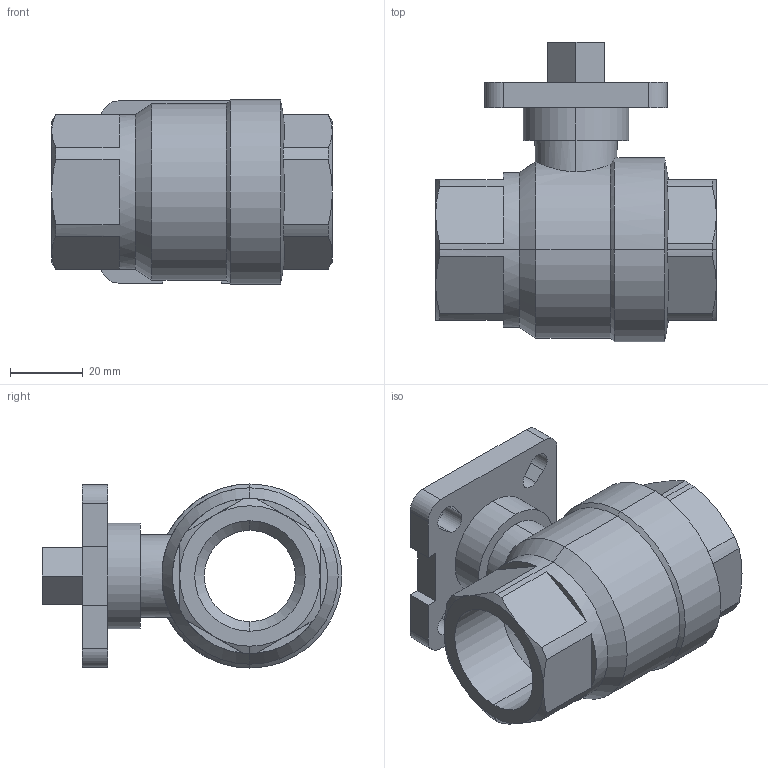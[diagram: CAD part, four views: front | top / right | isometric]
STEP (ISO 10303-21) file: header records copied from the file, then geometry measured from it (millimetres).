
FILE_DESCRIPTION (( 'STEP AP203' ), '1' );
FILE_NAME ('B3.622I0250FVPB0.STEP', '2018-09-28T13:32:39', ( '' ), ( '' ), 'SwSTEP 2.0', 'SolidWorks 2014', '' );
FILE_SCHEMA (( 'CONFIG_CONTROL_DESIGN' ));
Length unit declared in the file: millimetre
Products named in the file (1): B3.622I0250FVPB0
Bounding box: 77 x 82.25 x 50.5 mm (x, y, z)
Volume: 100779.2 mm3; surface area: 27317.8 mm2
Topology: 1 solids, 1 shells, 113 faces, 291 edges, 183 vertices
Faces by surface type: plane 48, cylinder 40, cone 25
Entity records: 3730 total; most frequent: CARTESIAN_POINT 870, DIRECTION 587, ORIENTED_EDGE 582, EDGE_CURVE 291, AXIS2_PLACEMENT_3D 220, VERTEX_POINT 183, LINE 147, VECTOR 147
